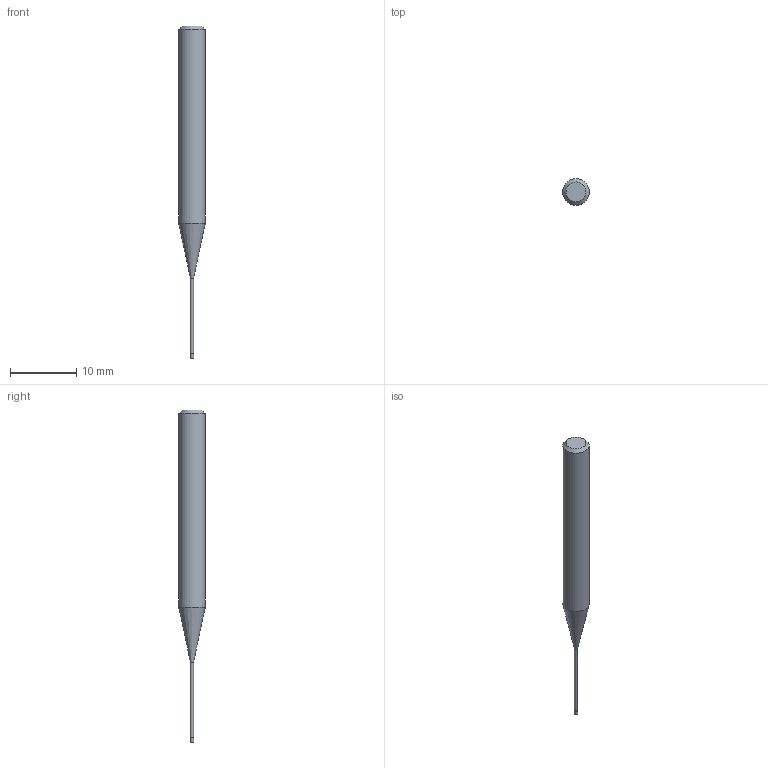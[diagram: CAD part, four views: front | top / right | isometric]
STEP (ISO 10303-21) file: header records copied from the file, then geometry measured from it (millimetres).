
FILE_DESCRIPTION((''),'2;1');
FILE_NAME('C:\Users\nsx150\AppData\Local\Temp\Mastercam 2021\17T8Q8S9EB\TEMP.step','2021-04-21T14:24:39',(''),(''),'STEP Write','Mastercam 2021 ... CNC Software, Inc.','');
FILE_SCHEMA(('AUTOMOTIVE_DESIGN'));
Length unit declared in the file: millimetre
Products named in the file (1): None
Bounding box: 4 x 4 x 50 mm (x, y, z)
Volume: 412.8 mm3; surface area: 459.1 mm2
Topology: 2 solids, 2 shells, 9 faces, 12 edges, 7 vertices
Faces by surface type: plane 4, cylinder 3, cone 2
Full cylindrical faces by diameter (mm): 0.46 x1, 0.5 x1, 4 x1
Entity records: 211 total; most frequent: DIRECTION 36, CARTESIAN_POINT 25, AXIS2_PLACEMENT_3D 18, ORIENTED_EDGE 14, EDGE_LOOP 14, STYLED_ITEM 12, ADVANCED_FACE 9, FACE_BOUND 8
